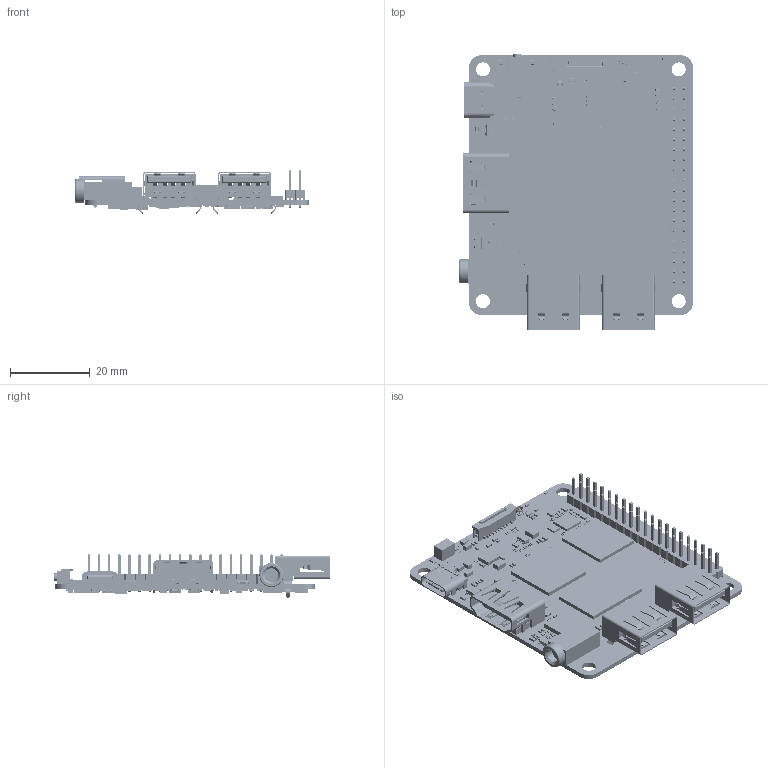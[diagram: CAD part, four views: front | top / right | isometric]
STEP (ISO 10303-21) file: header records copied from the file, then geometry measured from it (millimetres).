
FILE_DESCRIPTION((''),'2;1');
FILE_NAME('1143671-RS111_PADS9_5-20240401-_ASM','2025-10-09T14:06:17',('Owen'),(''),'CREO PARAMETRIC BY PTC INC, 2025123','CREO PARAMETRIC BY PTC INC, 2025123','');
FILE_SCHEMA(('CONFIG_CONTROL_DESIGN','SHAPE_APPEARANCE_LAYERS_GROUPS'));
Products named in the file (82): 1143671-RS111_PADS9_5-20240401-; C0201; C0402; C0603; C0805; L0201; R0201; ESD0402; SOD_123; SOT_23; L0402; CML_SM4_1D25_1D2; L0603; R0402; IND_252012; LED0603; MARK; SOT_723; R0603; R0805; R1206; TP_0R50; TP32; TP_1R00; BGA401_0D6_13D5; QFN24_0D4_4D0; SOT23_5; DFN8_0D4_1D6; SOT23_6; DP_SM6_0D5_1D6X0D8; QFN48_0D35_5D0; TSSOP8_0D65_2D6; BGA200_0D8_15D0; BGA153_0D5_11D5; TSSOP14_0D65_4D4; OSC_SM4_3D2X2D5; OSC_SM4_2D0X1D6; OSC_SM2_3D2X1D5; 000_9_5; _70001_4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
Assembly tree (544 placements, depth 5):
  1143671-RS111_PADS9_5-20240401-_ASM
    1143671-RS111_PADS9_5-20240401-
    C0201  x148
    C0402  x65
    C0603  x37
    C0805  x2
    L0201  x3
    R0201  x140
    ESD0402  x23
    SOD_123  x2
    SOT_23  x3
    L0402  x2
    CML_SM4_1D25_1D2  x6
    L0603  x3
    R0402  x16
    IND_252012  x4
    LED0603  x2
    MARK  x2
    SOT_723  x2
    R0603
    R0805
    R1206
    TP_0R50
    TP32  x7
    TP_1R00  x5
    BGA401_0D6_13D5
    QFN24_0D4_4D0
    SOT23_5  x7
    DFN8_0D4_1D6
    SOT23_6
    DP_SM6_0D5_1D6X0D8
    QFN48_0D35_5D0
    TSSOP8_0D65_2D6
    BGA200_0D8_15D0
    BGA153_0D5_11D5
    TSSOP14_0D65_4D4
    OSC_SM4_3D2X2D5  x2
    OSC_SM4_2D0X1D6
    OSC_SM2_3D2X1D5
    000_9_5
    USB-A-DIP_1_ASM_4_ASM  x2
      _70001_4
      90001_4
      140001_4
      PRT0001
    CAMERA_DISPLAY_1_ASM
      OBIEKT-PRZENIE_KOP0001
      LUSTRO1-18328
      OBIEKT-PRZENIE_KOP0002
      SZYK_LINIOWY2_8_-57783
      LUSTRO10_5_-63476
      POCZ20
      OBIEKT-PRZENIE_KOP0003
      OBIEKT-PRZENIE_KOP0004
      SZYK_LINIOWY2_9_-137747
      OBIEKT-PRZENIE_KOP0005
      OBIEKT-PRZENIE_KOP0006
      OBIEKT-PRZENIE_KOP0007
      LUSTRO10_6_-196387
      OBIEKT-PRZENIE_KOP0008
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Bounding box: 58.54 x 69.05 x 10.95 mm (x, y, z)
Volume: 8281.6 mm3; surface area: 18230.5 mm2
Topology: 430 solids, 580 shells, 27220 faces, 63578 edges, 33743 vertices
Faces by surface type: cylinder 11193, plane 10715, sphere 4020, torus 1143, bspline 78, extrusion 58, cone 13
Entity records: 119930 total; most frequent: CARTESIAN_POINT 23094, DIRECTION 19327, ORIENTED_EDGE 19046, EDGE_CURVE 9539, VECTOR 7727, LINE 7697, VERTEX_POINT 6087, AXIS2_PLACEMENT_3D 5800
